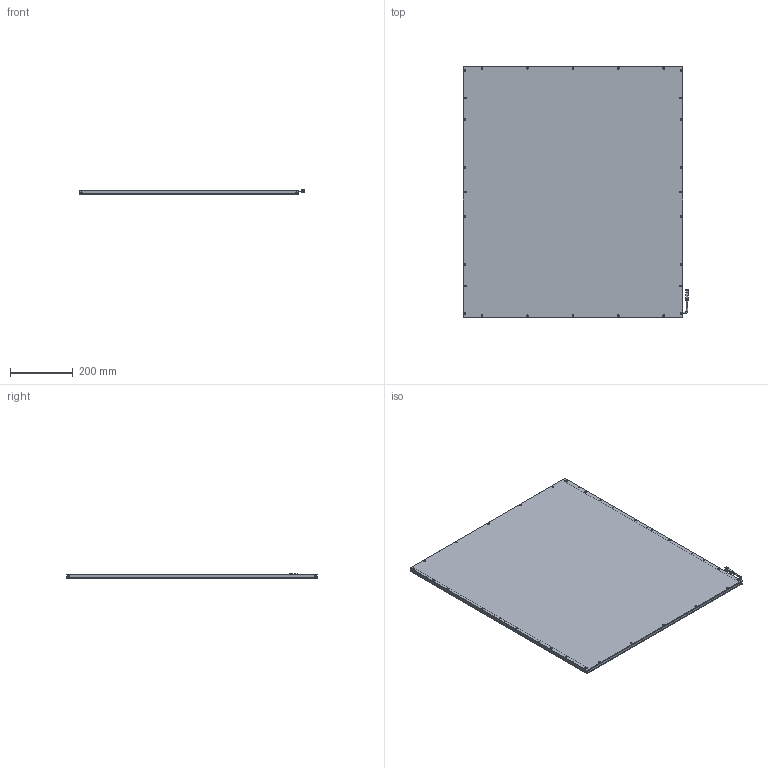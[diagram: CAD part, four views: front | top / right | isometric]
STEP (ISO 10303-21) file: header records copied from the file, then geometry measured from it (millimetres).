
FILE_DESCRIPTION (( 'STEP AP203' ), '1' );
FILE_NAME ('CRT-FLC760660-¼òÒ×3DÍ¼.STEP', '2021-11-29T06:24:32', ( 'Admin' ), ( '' ), 'SwSTEP 2.0', 'SolidWorks 2018', '' );
FILE_SCHEMA (( 'CONFIG_CONTROL_DESIGN' ));
Length unit declared in the file: millimetre
Products named in the file (1): CRT-FLC760660-潠眢3D芞
Bounding box: 719.45 x 800 x 14.85 mm (x, y, z)
Surface area: 1767177.8 mm2 (no closed solid volume)
Topology: 0 solids, 26 shells, 235 faces, 914 edges, 687 vertices
Faces by surface type: cylinder 99, plane 87, cone 46, bspline 3
Entity records: 10160 total; most frequent: CARTESIAN_POINT 2253, DIRECTION 1708, ORIENTED_EDGE 1341, EDGE_CURVE 914, VERTEX_POINT 687, AXIS2_PLACEMENT_3D 599, LINE 510, VECTOR 510
